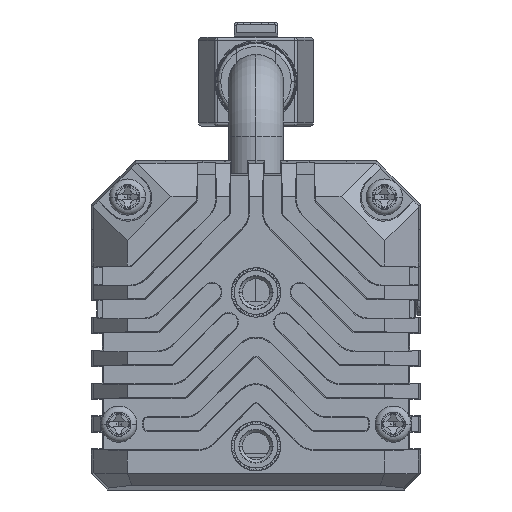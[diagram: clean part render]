
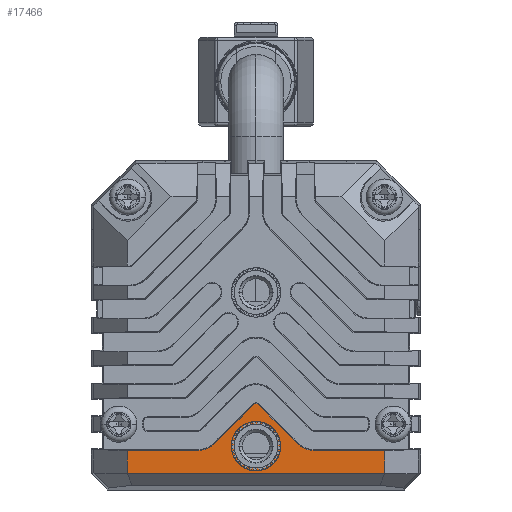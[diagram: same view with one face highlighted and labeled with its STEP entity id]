
A CAD part, left-side view. The second image highlights one B-rep face of the part: STEP entity #17466.
In plain terms, the highlighted planar face has unit normal (-1, 0, 0) as drawn and (1, 0, 0) by its records, which use the part's own axes.
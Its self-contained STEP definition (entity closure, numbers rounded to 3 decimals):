
#10374=CARTESIAN_POINT('',(5.,0.,7.527));
#10375=DIRECTION('',(1.,0.,0.));
#10376=DIRECTION('',(0.,0.707,0.707));
#10377=AXIS2_PLACEMENT_3D('',#10374,#10375,#10376);
#10383=DIRECTION('',(0.,0.707,-0.707));
#10384=VECTOR('',#10383,5.013);
#10385=CARTESIAN_POINT('',(5.,0.242,7.769));
#10386=LINE('',#10385,#10384);
#10390=DIRECTION('',(0.,-1.,0.));
#10391=VECTOR('',#10390,6.438);
#10392=CARTESIAN_POINT('',(5.,11.75,3.593));
#10393=LINE('',#10392,#10391);
#10397=DIRECTION('',(0.,0.,1.));
#10398=VECTOR('',#10397,2.093);
#10399=CARTESIAN_POINT('',(5.,11.75,1.5));
#10400=LINE('',#10399,#10398);
#10404=DIRECTION('',(0.,1.,0.));
#10405=VECTOR('',#10404,23.5);
#10406=CARTESIAN_POINT('',(5.,-11.75,1.5));
#10407=LINE('',#10406,#10405);
#10411=DIRECTION('',(0.,0.,-1.));
#10412=VECTOR('',#10411,2.093);
#10413=CARTESIAN_POINT('',(5.,-11.75,3.593));
#10414=LINE('',#10413,#10412);
#10418=DIRECTION('',(0.,1.,0.));
#10419=VECTOR('',#10418,6.438);
#10420=CARTESIAN_POINT('',(5.,-11.75,3.593));
#10421=LINE('',#10420,#10419);
#10425=DIRECTION('',(0.,0.707,0.707));
#10426=VECTOR('',#10425,5.013);
#10427=CARTESIAN_POINT('',(5.,-3.787,4.225));
#10428=LINE('',#10427,#10426);
#10432=CARTESIAN_POINT('',(5.,0.,4.));
#10433=DIRECTION('',(1.,0.,0.));
#10434=DIRECTION('',(0.,1.,0.));
#10435=AXIS2_PLACEMENT_3D('',#10432,#10433,#10434);
#10440=CARTESIAN_POINT('',(5.,0.,4.));
#10441=DIRECTION('',(1.,0.,0.));
#10442=DIRECTION('',(0.,-1.,0.));
#10443=AXIS2_PLACEMENT_3D('',#10440,#10441,#10442);
#11169=CARTESIAN_POINT('',(5.,-5.312,5.75));
#11170=DIRECTION('',(-1.,0.,0.));
#11171=DIRECTION('',(0.,0.707,-0.707));
#11172=AXIS2_PLACEMENT_3D('',#11169,#11170,#11171);
#14688=CARTESIAN_POINT('',(5.,5.312,5.75));
#14689=DIRECTION('',(-1.,0.,0.));
#14690=DIRECTION('',(0.,0.,-1.));
#14691=AXIS2_PLACEMENT_3D('',#14688,#14689,#14690);
#16361=CARTESIAN_POINT('',(5.,2.,4.));
#16362=CARTESIAN_POINT('',(5.,-2.,4.));
#16363=VERTEX_POINT('',#16361);
#16364=VERTEX_POINT('',#16362);
#16365=CARTESIAN_POINT('',(5.,-11.75,1.5));
#16366=CARTESIAN_POINT('',(5.,11.75,1.5));
#16367=VERTEX_POINT('',#16365);
#16368=VERTEX_POINT('',#16366);
#16467=CARTESIAN_POINT('',(5.,5.312,3.593));
#16468=VERTEX_POINT('',#16467);
#16469=CARTESIAN_POINT('',(5.,3.787,4.225));
#16470=VERTEX_POINT('',#16469);
#16475=CARTESIAN_POINT('',(5.,-3.787,4.225));
#16476=VERTEX_POINT('',#16475);
#16477=CARTESIAN_POINT('',(5.,-5.312,3.593));
#16478=VERTEX_POINT('',#16477);
#16555=CARTESIAN_POINT('',(5.,-11.75,3.593));
#16556=VERTEX_POINT('',#16555);
#16557=CARTESIAN_POINT('',(5.,11.75,3.593));
#16558=VERTEX_POINT('',#16557);
#16575=CARTESIAN_POINT('',(5.,0.242,7.769));
#16576=CARTESIAN_POINT('',(5.,-0.242,7.769));
#16577=VERTEX_POINT('',#16575);
#16578=VERTEX_POINT('',#16576);
#17433=CARTESIAN_POINT('',(5.,0.,0.));
#17434=DIRECTION('',(1.,0.,0.));
#17435=DIRECTION('',(0.,1.,0.));
#17436=AXIS2_PLACEMENT_3D('',#17433,#17434,#17435);
#17437=PLANE('',#17436);
#17439=ORIENTED_EDGE('',*,*,#17438,.F.);
#17441=ORIENTED_EDGE('',*,*,#17440,.T.);
#17443=ORIENTED_EDGE('',*,*,#17442,.F.);
#17445=ORIENTED_EDGE('',*,*,#17444,.F.);
#17447=ORIENTED_EDGE('',*,*,#17446,.F.);
#17449=ORIENTED_EDGE('',*,*,#17448,.F.);
#17451=ORIENTED_EDGE('',*,*,#17450,.F.);
#17453=ORIENTED_EDGE('',*,*,#17452,.T.);
#17455=ORIENTED_EDGE('',*,*,#17454,.F.);
#17457=ORIENTED_EDGE('',*,*,#17456,.T.);
#17458=EDGE_LOOP('',(#17439,#17441,#17443,#17445,#17447,#17449,#17451,#17453,
#17455,#17457));
#17459=FACE_OUTER_BOUND('',#17458,.F.);
#17461=ORIENTED_EDGE('',*,*,#17460,.T.);
#17463=ORIENTED_EDGE('',*,*,#17462,.T.);
#17464=EDGE_LOOP('',(#17461,#17463));
#17465=FACE_BOUND('',#17464,.F.);
#10378=CIRCLE('',#10377,0.343);
#10436=CIRCLE('',#10435,2.);
#10444=CIRCLE('',#10443,2.);
#11173=CIRCLE('',#11172,2.157);
#14692=CIRCLE('',#14691,2.157);
#17438=EDGE_CURVE('',#16577,#16578,#10378,.T.);
#17440=EDGE_CURVE('',#16577,#16470,#10386,.T.);
#17442=EDGE_CURVE('',#16468,#16470,#14692,.T.);
#17444=EDGE_CURVE('',#16558,#16468,#10393,.T.);
#17446=EDGE_CURVE('',#16368,#16558,#10400,.T.);
#17448=EDGE_CURVE('',#16367,#16368,#10407,.T.);
#17450=EDGE_CURVE('',#16556,#16367,#10414,.T.);
#17452=EDGE_CURVE('',#16556,#16478,#10421,.T.);
#17454=EDGE_CURVE('',#16476,#16478,#11173,.T.);
#17456=EDGE_CURVE('',#16476,#16578,#10428,.T.);
#17460=EDGE_CURVE('',#16363,#16364,#10436,.T.);
#17462=EDGE_CURVE('',#16364,#16363,#10444,.T.);
#17466=ADVANCED_FACE('',(#17459,#17465),#17437,.T.);
